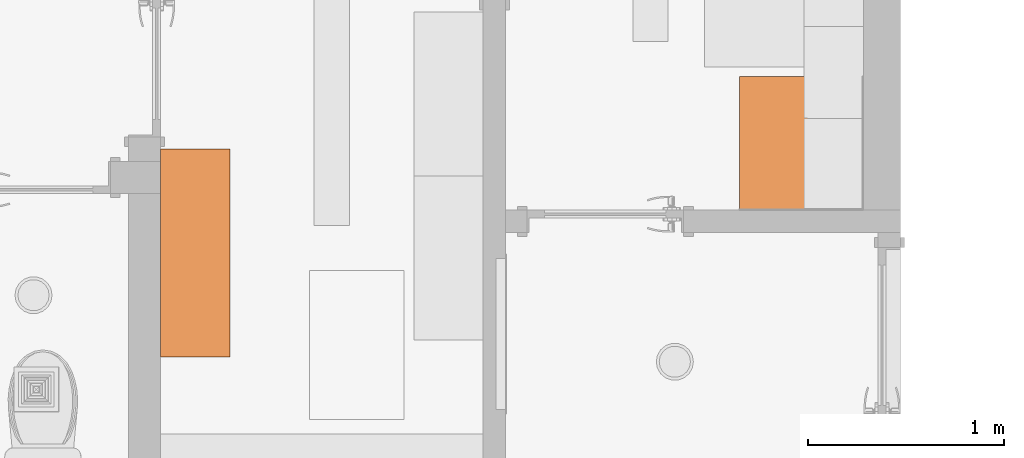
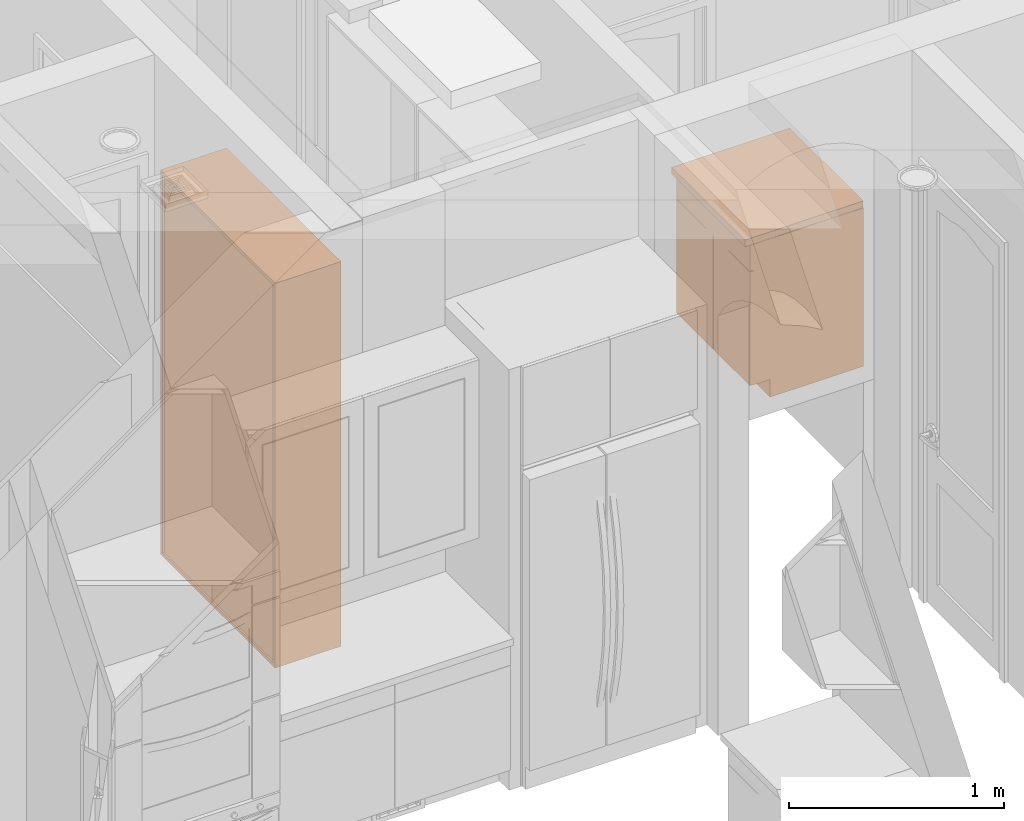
# One storey, part 69 of 77: 2 proxies.
"""IFC2X3 building model written with IfcOpenShell, lengths in inches."""

from ifc_helpers import new_model, entity, si_unit, converted_unit, derived_unit, money_unit, direction, frame, origin_with_axes, place, context, subcontext, project, spatial, faceted_brep, type_object, element, save


model = new_model("IFC2X3")

# Units and contexts
model_context = context("Model", 3, precision=0.000393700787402, world=origin_with_axes(), true_north=direction((0.0, 1.0)))
body_context = subcontext(model_context, "Body", "Model", "MODEL_VIEW")
ifc_project = project(units=[converted_unit("LENGTHUNIT", "INCH", entity("IfcPositiveLengthMeasure", 0.0254), si_unit("LENGTHUNIT", "METRE"), dimensions=[1, 0, 0, 0, 0, 0, 0]), converted_unit("AREAUNIT", "SQUARE_FOOT", entity("IfcPositiveLengthMeasure", 0.09290304), si_unit("AREAUNIT", "SQUARE_METRE"), dimensions=[2, 0, 0, 0, 0, 0, 0]), si_unit("PLANEANGLEUNIT", "RADIAN"), si_unit("SOLIDANGLEUNIT", "STERADIAN"), money_unit("USD"), converted_unit("TIMEUNIT", "Year", entity("IfcTimeMeasure", 31556926.0), si_unit("TIMEUNIT", "SECOND"), dimensions=[0, 0, 1, 0, 0, 0, 0]), si_unit("MASSUNIT", "GRAM", prefix="KILO"), si_unit("THERMODYNAMICTEMPERATUREUNIT", "DEGREE_CELSIUS"), si_unit("LUMINOUSINTENSITYUNIT", "LUMEN"), si_unit("ENERGYUNIT", "JOULE", prefix="MEGA"), derived_unit("THERMALCONDUCTANCEUNIT", [(si_unit("POWERUNIT", "WATT"), 1), (si_unit("LENGTHUNIT", "METRE"), -1), (si_unit("THERMODYNAMICTEMPERATUREUNIT", "KELVIN"), -1)]), derived_unit("SPECIFICHEATCAPACITYUNIT", [(si_unit("ENERGYUNIT", "JOULE"), 1), (si_unit("MASSUNIT", "GRAM", prefix="KILO"), -1), (si_unit("THERMODYNAMICTEMPERATUREUNIT", "KELVIN"), -1)]), derived_unit("MASSDENSITYUNIT", [(si_unit("MASSUNIT", "GRAM", prefix="KILO"), 1), (si_unit("VOLUMEUNIT", "CUBIC_METRE"), -1)])], contexts=[model_context])

# Site, building, storey
site_placement = place(None, origin_with_axes())
site = spatial("IfcSite", under=ifc_project, at=site_placement, Name="Site", CompositionType="ELEMENT")
building_placement = place(site_placement, origin_with_axes())
building = spatial("IfcBuilding", under=site, at=building_placement, Name="Building", CompositionType="ELEMENT")
storey_placement = place(building_placement, frame((0.0, 0.0, 127.952755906), z_axis=(0.0, 0.0, 1.0), x_axis=(1.0, 0.0, 0.0)))
storey = spatial("IfcBuildingStorey", under=building, at=storey_placement, Name="Second Floor", CompositionType="ELEMENT", Elevation=127.953)

# Proxies
building_element_proxy_type_1 = type_object("IfcBuildingElementProxyType", Name="Base Cabinet Block 25", PredefinedType="NOTDEFINED")
proxy_1_placement = place(storey_placement, frame((719.519431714, 496.965960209, 0.0), z_axis=(0.0, 0.0, 1.0), x_axis=(0.0, -1.0, 0.0)))
element("IfcBuildingElementProxy", 1, at=proxy_1_placement, inside=storey, type_object=building_element_proxy_type_1, Name="FU - 007", context=body_context, shape_type="Brep", body=[
    faceted_brep([(0.0, -25.0001839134, 35.4330708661), (26.8988597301, -25.0001839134, 35.4330708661), (26.8988597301, -25.0001839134, 36.9330708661), (0.0, -25.0001839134, 36.9330708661), (0.0, 0.0, 35.4330708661), (26.8988597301, 0.0, 35.4330708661), (26.8988597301, 0.0, 36.9330708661), (0.0, 0.0, 36.9330708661)], [[[0, 1, 2, 3]], [[0, 4, 5, 1]], [[1, 5, 6, 2]], [[3, 2, 6, 7]], [[4, 0, 3, 7]], [[5, 4, 7, 6]]]),
    faceted_brep([(0.75, -23.25, 29.125), (26.218503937, -23.25, 29.125), (26.218503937, -23.25, 29.875), (0.75, -23.25, 29.875), (0.75, -0.75, 29.125), (26.218503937, -0.75, 29.125), (26.218503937, -0.75, 29.875), (0.75, -0.75, 29.875)], [[[0, 1, 2, 3]], [[0, 4, 5, 1]], [[1, 5, 6, 2]], [[3, 2, 6, 7]], [[4, 0, 3, 7]], [[5, 4, 7, 6]]]),
    faceted_brep([(26.0216535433, -23.25, 30.0718503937), (0.946850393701, -23.25, 30.0718503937), (0.946850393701, -0.75, 30.0718503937), (26.0216535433, -0.75, 30.0718503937), (26.0216535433, -23.25, 30.4655511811), (0.946850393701, -23.25, 30.4655511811), (0.946850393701, -0.75, 30.4655511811), (26.0216535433, -0.75, 30.4655511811)], [[[0, 1, 2, 3]], [[1, 0, 4, 5]], [[2, 1, 5, 6]], [[3, 2, 6, 7]], [[0, 3, 7, 4]], [[5, 4, 7, 6]]]),
    faceted_brep([(1.7342519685, -23.25, 30.4655511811), (0.946850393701, -23.25, 30.4655511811), (0.946850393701, -0.75, 30.4655511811), (1.7342519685, -0.75, 30.4655511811), (1.7342519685, -23.25, 34.4862204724), (0.946850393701, -23.25, 34.4862204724), (0.946850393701, -0.75, 34.4862204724), (1.7342519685, -0.75, 34.4862204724)], [[[0, 1, 2, 3]], [[1, 0, 4, 5]], [[2, 1, 5, 6]], [[3, 2, 6, 7]], [[0, 3, 7, 4]], [[5, 4, 7, 6]]]),
    faceted_brep([(26.0216535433, -23.25, 30.4655511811), (25.2342519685, -23.25, 30.4655511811), (25.2342519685, -0.75, 30.4655511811), (26.0216535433, -0.75, 30.4655511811), (26.0216535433, -23.25, 34.4862204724), (25.2342519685, -23.25, 34.4862204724), (25.2342519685, -0.75, 34.4862204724), (26.0216535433, -0.75, 34.4862204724)], [[[0, 1, 2, 3]], [[1, 0, 4, 5]], [[2, 1, 5, 6]], [[3, 2, 6, 7]], [[0, 3, 7, 4]], [[5, 4, 7, 6]]]),
    faceted_brep([(25.2342519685, -1.3405511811, 30.4655511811), (1.7342519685, -1.3405511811, 30.4655511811), (1.7342519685, -0.946850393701, 30.4655511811), (25.2342519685, -0.946850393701, 30.4655511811), (25.2342519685, -1.3405511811, 34.4862204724), (1.7342519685, -1.3405511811, 34.4862204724), (1.7342519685, -0.946850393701, 34.4862204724), (25.2342519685, -0.946850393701, 34.4862204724)], [[[0, 1, 2, 3]], [[1, 0, 4, 5]], [[2, 1, 5, 6]], [[3, 2, 6, 7]], [[0, 3, 7, 4]], [[5, 4, 7, 6]]]),
    faceted_brep([(0.0393700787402, -23.25, 4.03937007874), (13.4448818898, -23.25, 4.03937007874), (13.4448818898, -24.0, 4.03937007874), (0.0393700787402, -24.0, 4.03937007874), (0.0393700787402, -23.25, 29.4606299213), (13.4448818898, -23.25, 29.4606299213), (13.4448818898, -24.0, 29.4606299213), (0.0393700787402, -24.0, 29.4606299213)], [[[0, 1, 2, 3]], [[0, 4, 5, 1]], [[1, 5, 6, 2]], [[3, 2, 6, 7]], [[4, 0, 3, 7]], [[5, 4, 7, 6]]]),
    faceted_brep([(26.9291338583, -23.25, 4.03937007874), (26.9291338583, -24.0, 4.03937007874), (13.5236220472, -24.0, 4.03937007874), (13.5236220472, -23.25, 4.03937007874), (26.9291338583, -23.25, 29.4606299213), (26.9291338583, -24.0, 29.4606299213), (13.5236220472, -24.0, 29.4606299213), (13.5236220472, -23.25, 29.4606299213)], [[[0, 1, 2, 3]], [[4, 5, 1, 0]], [[1, 5, 6, 2]], [[3, 2, 6, 7]], [[0, 3, 7, 4]], [[7, 6, 5, 4]]]),
    faceted_brep([(0.0393700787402, -23.25, 29.5393700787), (26.9291338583, -23.25, 29.5393700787), (26.9291338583, -24.0, 29.5393700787), (0.0393700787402, -24.0, 29.5393700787), (0.0393700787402, -23.25, 35.3937007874), (26.9291338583, -23.25, 35.3937007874), (26.9291338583, -24.0, 35.3937007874), (0.0393700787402, -24.0, 35.3937007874)], [[[0, 1, 2, 3]], [[0, 4, 5, 1]], [[1, 5, 6, 2]], [[3, 2, 6, 7]], [[4, 0, 3, 7]], [[5, 4, 7, 6]]]),
    faceted_brep([(0.75, -23.25, 4.0), (26.218503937, -23.25, 4.0), (26.218503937, -23.25, 4.75), (0.75, -23.25, 4.75), (0.75, 0.0, 4.0), (26.218503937, 0.0, 4.0), (26.218503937, 0.0, 4.75), (0.75, 0.0, 4.75)], [[[0, 1, 2, 3]], [[0, 4, 5, 1]], [[1, 5, 6, 2]], [[3, 2, 6, 7]], [[4, 0, 3, 7]], [[5, 4, 7, 6]]]),
    faceted_brep([(0.75, -23.25, 34.6830708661), (0.75, -20.8877952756, 34.6830708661), (26.218503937, -20.8877952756, 34.6830708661), (26.218503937, -23.25, 34.6830708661), (0.75, -23.25, 35.4330708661), (0.75, -20.8877952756, 35.4330708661), (26.218503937, -20.8877952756, 35.4330708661), (26.218503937, -23.25, 35.4330708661)], [[[0, 1, 2, 3]], [[0, 4, 5, 1]], [[1, 5, 6, 2]], [[3, 2, 6, 7]], [[4, 0, 3, 7]], [[5, 4, 7, 6]]]),
    faceted_brep([(26.218503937, 0.0, 34.6830708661), (26.218503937, -2.36220472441, 34.6830708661), (0.75, -2.36220472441, 34.6830708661), (0.75, 0.0, 34.6830708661), (26.218503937, 0.0, 35.4330708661), (26.218503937, -2.36220472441, 35.4330708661), (0.75, -2.36220472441, 35.4330708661), (0.75, 0.0, 35.4330708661)], [[[0, 1, 2, 3]], [[0, 4, 5, 1]], [[1, 5, 6, 2]], [[3, 2, 6, 7]], [[4, 0, 3, 7]], [[5, 4, 7, 6]]]),
    faceted_brep([(0.0, 0.0, 4.0), (0.0, -23.25, 4.0), (0.0, -23.25, 35.4330708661), (0.0, 0.0, 35.4330708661), (0.75, 0.0, 4.0), (0.75, -23.25, 4.0), (0.75, -23.25, 35.4330708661), (0.75, 0.0, 35.4330708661)], [[[0, 1, 2, 3]], [[0, 4, 5, 1]], [[1, 5, 6, 2]], [[3, 2, 6, 7]], [[4, 0, 3, 7]], [[5, 4, 7, 6]]]),
    faceted_brep([(26.968503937, -23.25, 4.0), (26.968503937, 0.0, 4.0), (26.968503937, 0.0, 35.4330708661), (26.968503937, -23.25, 35.4330708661), (26.218503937, -23.25, 4.0), (26.218503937, 0.0, 4.0), (26.218503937, 0.0, 35.4330708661), (26.218503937, -23.25, 35.4330708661)], [[[0, 1, 2, 3]], [[0, 4, 5, 1]], [[1, 5, 6, 2]], [[3, 2, 6, 7]], [[4, 0, 3, 7]], [[5, 4, 7, 6]]]),
    faceted_brep([(26.218503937, -0.375, 4.75), (0.75, -0.375, 4.75), (0.75, -0.375, 34.6830708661), (26.218503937, -0.375, 34.6830708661), (26.218503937, -0.75, 4.75), (0.75, -0.75, 4.75), (0.75, -0.75, 34.6830708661), (26.218503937, -0.75, 34.6830708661)], [[[0, 1, 2, 3]], [[0, 4, 5, 1]], [[1, 5, 6, 2]], [[3, 2, 6, 7]], [[4, 0, 3, 7]], [[5, 4, 7, 6]]]),
    faceted_brep([(0.0, -19.75, 0.0), (26.968503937, -19.75, 0.0), (26.968503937, -19.75, 4.0), (0.0, -19.75, 4.0), (0.0, 0.0, 0.0), (26.968503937, 0.0, 0.0), (26.968503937, 0.0, 4.0), (0.0, 0.0, 4.0)], [[[0, 1, 2, 3]], [[0, 4, 5, 1]], [[1, 5, 6, 2]], [[3, 2, 6, 7]], [[4, 0, 3, 7]], [[5, 4, 7, 6]]]),
])
building_element_proxy_type_2 = type_object("IfcBuildingElementProxyType", Name="Standing Cabinet Block 25", PredefinedType="NOTDEFINED")
proxy_2_placement = place(storey_placement, frame((577.989643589, 440.40717231, 0.0), z_axis=(0.0, 0.0, 1.0), x_axis=(0.0, 1.0, 0.0)))
element("IfcBuildingElementProxy", 2, at=proxy_2_placement, inside=storey, type_object=building_element_proxy_type_2, Name="FU - 006", context=body_context, shape_type="Brep", body=[
    faceted_brep([(0.75, -13.9763779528, 0.0), (41.1791338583, -13.9763779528, 0.0), (41.1791338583, -13.9763779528, 0.75), (0.75, -13.9763779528, 0.75), (0.75, 0.0, 0.0), (41.1791338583, 0.0, 0.0), (41.1791338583, 0.0, 0.75), (0.75, 0.0, 0.75)], [[[0, 1, 2, 3]], [[0, 4, 5, 1]], [[1, 5, 6, 2]], [[3, 2, 6, 7]], [[4, 0, 3, 7]], [[5, 4, 7, 6]]]),
    faceted_brep([(0.75, -13.9763779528, 85.2736220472), (41.1791338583, -13.9763779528, 85.2736220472), (41.1791338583, -13.9763779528, 86.0236220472), (0.75, -13.9763779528, 86.0236220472), (0.75, 0.0, 85.2736220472), (41.1791338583, 0.0, 85.2736220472), (41.1791338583, 0.0, 86.0236220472), (0.75, 0.0, 86.0236220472)], [[[0, 1, 2, 3]], [[0, 4, 5, 1]], [[1, 5, 6, 2]], [[3, 2, 6, 7]], [[4, 0, 3, 7]], [[5, 4, 7, 6]]]),
    faceted_brep([(0.0, 0.0, 0.0), (0.0, -13.9763779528, 0.0), (0.0, -13.9763779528, 86.0236220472), (0.0, 0.0, 86.0236220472), (0.75, 0.0, 0.0), (0.75, -13.9763779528, 0.0), (0.75, -13.9763779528, 86.0236220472), (0.75, 0.0, 86.0236220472)], [[[0, 1, 2, 3]], [[0, 4, 5, 1]], [[1, 5, 6, 2]], [[3, 2, 6, 7]], [[4, 0, 3, 7]], [[5, 4, 7, 6]]]),
    faceted_brep([(41.9291338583, -13.9763779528, 0.0), (41.9291338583, 0.0, 0.0), (41.9291338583, 0.0, 86.0236220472), (41.9291338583, -13.9763779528, 86.0236220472), (41.1791338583, -13.9763779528, 0.0), (41.1791338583, 0.0, 0.0), (41.1791338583, 0.0, 86.0236220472), (41.1791338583, -13.9763779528, 86.0236220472)], [[[0, 1, 2, 3]], [[0, 4, 5, 1]], [[1, 5, 6, 2]], [[3, 2, 6, 7]], [[4, 0, 3, 7]], [[5, 4, 7, 6]]]),
    faceted_brep([(41.1791338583, -0.375, 0.75), (0.75, -0.375, 0.75), (0.75, -0.375, 85.2736220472), (41.1791338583, -0.375, 85.2736220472), (41.1791338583, -0.75, 0.75), (0.75, -0.75, 0.75), (0.75, -0.75, 85.2736220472), (41.1791338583, -0.75, 85.2736220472)], [[[0, 1, 2, 3]], [[0, 4, 5, 1]], [[1, 5, 6, 2]], [[3, 2, 6, 7]], [[4, 0, 3, 7]], [[5, 4, 7, 6]]]),
])

save(model, "model.ifc")
